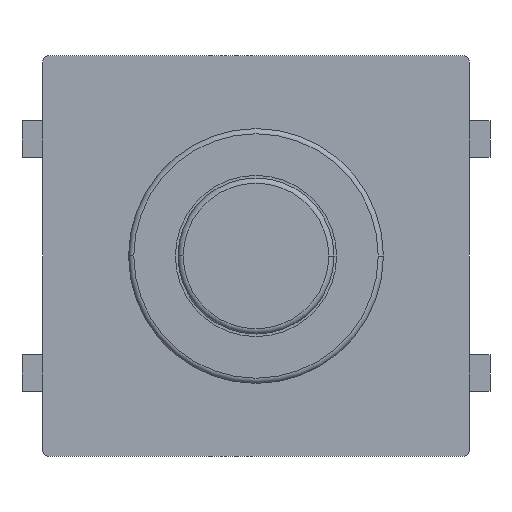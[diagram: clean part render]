
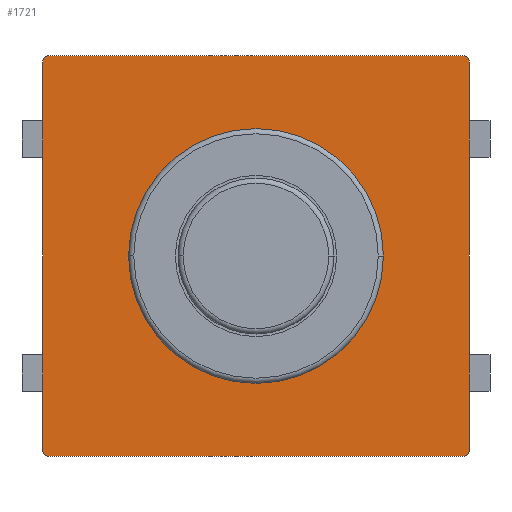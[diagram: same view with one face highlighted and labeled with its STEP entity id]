
A CAD part, front view. The second image highlights one B-rep face of the part: STEP entity #1721.
In plain terms, the highlighted planar face has unit normal (0, -1, 0).
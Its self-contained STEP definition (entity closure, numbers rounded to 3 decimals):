
#24=CARTESIAN_POINT('',(0.,0.,0.));
#25=DIRECTION('',(0.,-1.,0.));
#26=DIRECTION('',(1.,0.,0.));
#27=AXIS2_PLACEMENT_3D('',#24,#25,#26);
#32=CARTESIAN_POINT('',(0.,0.,0.));
#33=DIRECTION('',(0.,-1.,0.));
#34=DIRECTION('',(-1.,0.,0.));
#35=AXIS2_PLACEMENT_3D('',#32,#33,#34);
#72=CARTESIAN_POINT('',(4.,0.,3.75));
#73=DIRECTION('',(0.,-1.,0.));
#74=DIRECTION('',(1.,0.,0.));
#75=AXIS2_PLACEMENT_3D('',#72,#73,#74);
#80=DIRECTION('',(0.,0.,-1.));
#81=VECTOR('',#80,7.5);
#82=CARTESIAN_POINT('',(4.1,0.,3.75));
#83=LINE('',#82,#81);
#87=CARTESIAN_POINT('',(4.,0.,-3.75));
#88=DIRECTION('',(0.,-1.,0.));
#89=DIRECTION('',(0.,0.,-1.));
#90=AXIS2_PLACEMENT_3D('',#87,#88,#89);
#95=DIRECTION('',(-1.,0.,0.));
#96=VECTOR('',#95,8.);
#97=CARTESIAN_POINT('',(4.,0.,-3.85));
#98=LINE('',#97,#96);
#102=CARTESIAN_POINT('',(-4.,0.,-3.75));
#103=DIRECTION('',(0.,-1.,0.));
#104=DIRECTION('',(-1.,0.,0.));
#105=AXIS2_PLACEMENT_3D('',#102,#103,#104);
#110=DIRECTION('',(0.,0.,1.));
#111=VECTOR('',#110,7.5);
#112=CARTESIAN_POINT('',(-4.1,0.,-3.75));
#113=LINE('',#112,#111);
#117=CARTESIAN_POINT('',(-4.,0.,3.75));
#118=DIRECTION('',(0.,-1.,0.));
#119=DIRECTION('',(0.,0.,1.));
#120=AXIS2_PLACEMENT_3D('',#117,#118,#119);
#125=DIRECTION('',(1.,0.,0.));
#126=VECTOR('',#125,8.);
#127=CARTESIAN_POINT('',(-4.,0.,3.85));
#128=LINE('',#127,#126);
#1442=CARTESIAN_POINT('',(2.45,0.,0.));
#1443=CARTESIAN_POINT('',(-2.45,0.,0.));
#1444=VERTEX_POINT('',#1442);
#1445=VERTEX_POINT('',#1443);
#1466=CARTESIAN_POINT('',(4.1,0.,3.75));
#1467=CARTESIAN_POINT('',(4.,0.,3.85));
#1468=VERTEX_POINT('',#1466);
#1469=VERTEX_POINT('',#1467);
#1474=CARTESIAN_POINT('',(4.,0.,-3.85));
#1475=CARTESIAN_POINT('',(4.1,0.,-3.75));
#1476=VERTEX_POINT('',#1474);
#1477=VERTEX_POINT('',#1475);
#1482=CARTESIAN_POINT('',(-4.,0.,3.85));
#1483=CARTESIAN_POINT('',(-4.1,0.,3.75));
#1484=VERTEX_POINT('',#1482);
#1485=VERTEX_POINT('',#1483);
#1490=CARTESIAN_POINT('',(-4.1,0.,-3.75));
#1491=CARTESIAN_POINT('',(-4.,0.,-3.85));
#1492=VERTEX_POINT('',#1490);
#1493=VERTEX_POINT('',#1491);
#1692=CARTESIAN_POINT('',(0.,0.,0.));
#1693=DIRECTION('',(0.,1.,0.));
#1694=DIRECTION('',(1.,0.,0.));
#1695=AXIS2_PLACEMENT_3D('',#1692,#1693,#1694);
#1696=PLANE('',#1695);
#1698=ORIENTED_EDGE('',*,*,#1697,.F.);
#1700=ORIENTED_EDGE('',*,*,#1699,.T.);
#1702=ORIENTED_EDGE('',*,*,#1701,.F.);
#1704=ORIENTED_EDGE('',*,*,#1703,.T.);
#1706=ORIENTED_EDGE('',*,*,#1705,.F.);
#1708=ORIENTED_EDGE('',*,*,#1707,.T.);
#1710=ORIENTED_EDGE('',*,*,#1709,.F.);
#1712=ORIENTED_EDGE('',*,*,#1711,.T.);
#1713=EDGE_LOOP('',(#1698,#1700,#1702,#1704,#1706,#1708,#1710,#1712));
#1714=FACE_OUTER_BOUND('',#1713,.F.);
#1716=ORIENTED_EDGE('',*,*,#1715,.T.);
#1718=ORIENTED_EDGE('',*,*,#1717,.T.);
#1719=EDGE_LOOP('',(#1716,#1718));
#1720=FACE_BOUND('',#1719,.F.);
#28=CIRCLE('',#27,2.45);
#36=CIRCLE('',#35,2.45);
#76=CIRCLE('',#75,0.1);
#91=CIRCLE('',#90,0.1);
#106=CIRCLE('',#105,0.1);
#121=CIRCLE('',#120,0.1);
#1697=EDGE_CURVE('',#1468,#1469,#76,.T.);
#1699=EDGE_CURVE('',#1468,#1477,#83,.T.);
#1701=EDGE_CURVE('',#1476,#1477,#91,.T.);
#1703=EDGE_CURVE('',#1476,#1493,#98,.T.);
#1705=EDGE_CURVE('',#1492,#1493,#106,.T.);
#1707=EDGE_CURVE('',#1492,#1485,#113,.T.);
#1709=EDGE_CURVE('',#1484,#1485,#121,.T.);
#1711=EDGE_CURVE('',#1484,#1469,#128,.T.);
#1715=EDGE_CURVE('',#1444,#1445,#28,.T.);
#1717=EDGE_CURVE('',#1445,#1444,#36,.T.);
#1721=ADVANCED_FACE('',(#1714,#1720),#1696,.F.);
